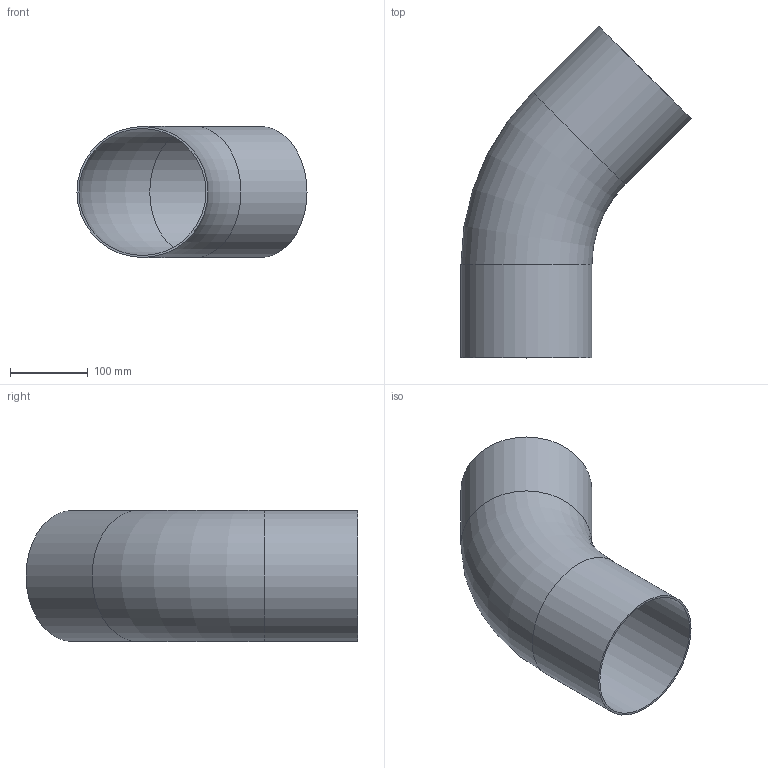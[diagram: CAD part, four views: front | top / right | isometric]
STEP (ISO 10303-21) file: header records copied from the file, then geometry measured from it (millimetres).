
FILE_DESCRIPTION(/* description */ (''),/* implementation_level */ '2;1');
FILE_NAME(/* name */ 'C:\Users\LK_9K\Desktop\STRAUB BOGEN 45 B3 DN150.stp',/* time_stamp */ '2021-04-09T07:06:40+02:00',/* author */ ('LK_9K'),/* organization */ (''),/* preprocessor_version */ 'ST-DEVELOPER v18.1',/* originating_system */ 'Autodesk Inventor 2020',/* authorisation */ '');
FILE_SCHEMA (('AUTOMOTIVE_DESIGN { 1 0 10303 214 3 1 1 }'));
Length unit declared in the file: millimetre
Products named in the file (1): Bauteil1
Bounding box: 295.58 x 426.28 x 168.3 mm (x, y, z)
Volume: 568258.9 mm3; surface area: 439829.2 mm2
Topology: 1 solids, 1 shells, 8 faces, 20 edges, 14 vertices
Faces by surface type: cylinder 4, torus 2, plane 2
Full cylindrical faces by diameter (mm): 163.1 x2, 168.3 x2
Entity records: 301 total; most frequent: DIRECTION 54, CARTESIAN_POINT 43, ORIENTED_EDGE 40, AXIS2_PLACEMENT_3D 25, EDGE_CURVE 20, CIRCLE 16, VERTEX_POINT 14, EDGE_LOOP 10
